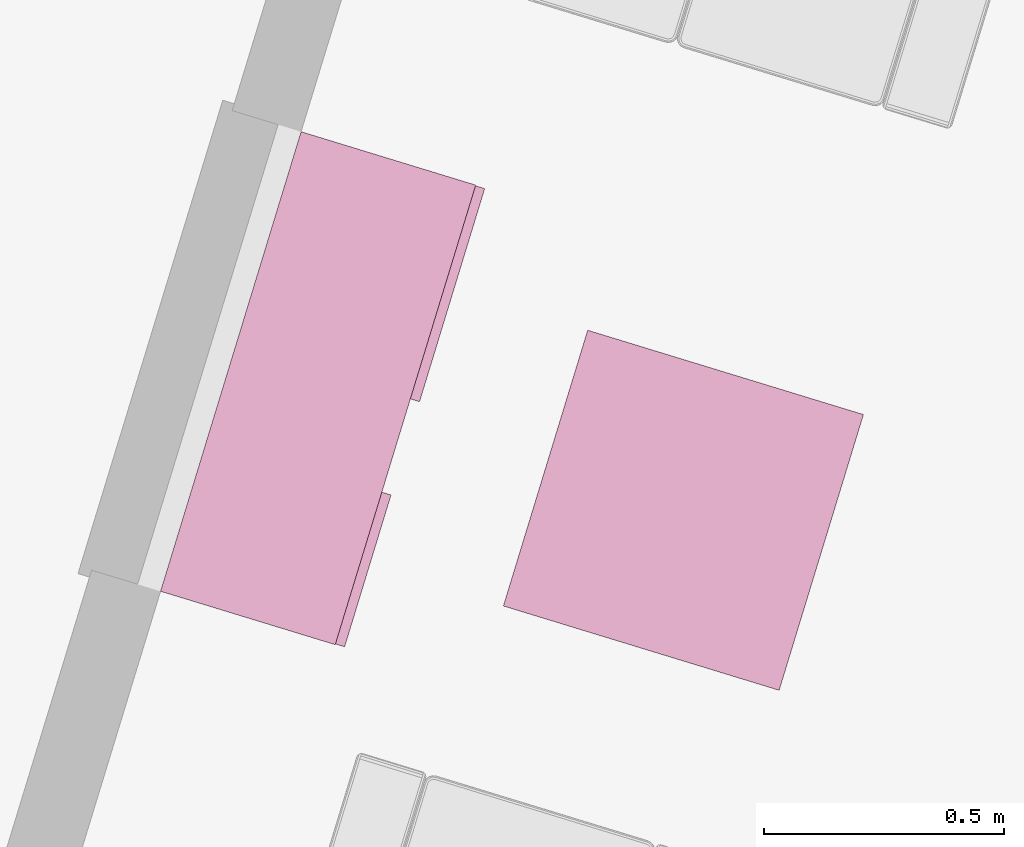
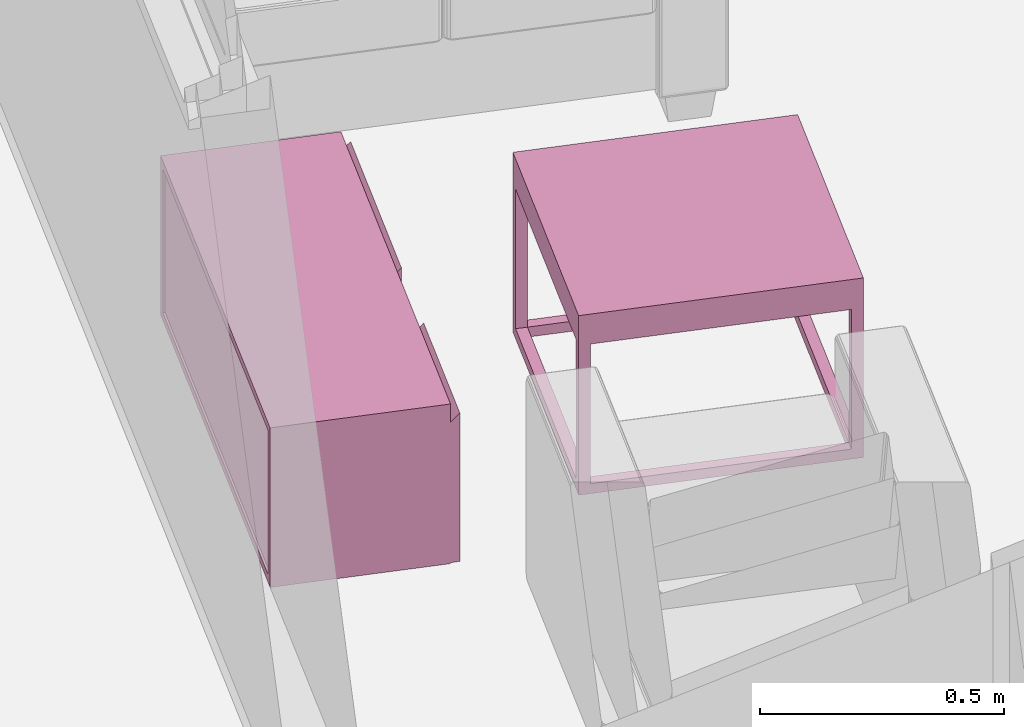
# One storey, part 12 of 13: 2 furnishings.
"""IFC2X3 building model written with IfcOpenShell, lengths in millimetres."""

import ifcopenshell
import ifcopenshell.guid

model = None  # the IFC model being written
_history = None  # IfcOwnerHistory: only IFC2X3 demands one
_inside = {}  # id of a spatial element -> (the spatial element, [elements in it])
_under = {}  # id of a project, library or spatial element -> (it, [spatial elements below it])
_declared = {}  # id of a project -> (the project, [libraries it declares])
_typed = {}  # id of a type object -> (the type object, [elements of that type])
_made_of = {}  # id of a material, layer set ... -> (it, [elements and type objects made of it])


def new_model(schema):
    """Start an empty IFC model of exactly this schema.

    Asked for "IFC4X3", IfcOpenShell would pick the latest addendum, in which some entities
    have other attributes; the version numbers below select the first issue.
    IFC2X3 requires an IfcOwnerHistory on every rooted entity: one is made here for all.
    """
    global model, _history
    if schema == "IFC4X3":
        model = ifcopenshell.file(schema_version=(4, 3, 0, 0))
    else:
        model = ifcopenshell.file(schema=schema)
    _inside.clear()
    _under.clear()
    _declared.clear()
    _typed.clear()
    _made_of.clear()
    _history = None
    if model.schema == "IFC2X3":
        org = make("IfcOrganization", Name="unknown")
        user = make(
            "IfcPersonAndOrganization",
            ThePerson=make("IfcPerson", FamilyName="unknown"),
            TheOrganization=org,
        )
        app = make(
            "IfcApplication",
            ApplicationDeveloper=org,
            Version="unknown",
            ApplicationFullName="unknown",
            ApplicationIdentifier="unknown",
        )
        _history = make(
            "IfcOwnerHistory",
            OwningUser=user,
            OwningApplication=app,
            ChangeAction="ADDED",
            CreationDate=0,
        )
    return model


def make(cls, **values):
    """One entity of the class cls with the attributes given. An attribute that is None is left unset."""
    return model.create_entity(
        cls, **{name: value for name, value in values.items() if value is not None}
    )


def entity(cls, *values):
    """Any entity or typed value of the class cls, its attributes in the order of the schema. None: left unset."""
    e = model.create_entity(cls)
    for i, value in enumerate(values):
        if value is not None:
            e[i] = value
    return e


def rooted(cls, **values):
    """An entity with a GlobalId (a new one), such as an element, a storey or a relation."""
    return make(cls, GlobalId=ifcopenshell.guid.new(), OwnerHistory=_history, **values)


def si_unit(unit_type, name, prefix=None):
    """IfcSIUnit, for example si_unit("LENGTHUNIT", "METRE", prefix="MILLI")."""
    return make("IfcSIUnit", UnitType=unit_type, Prefix=prefix, Name=name)


def converted_unit(unit_type, name, factor, base, dimensions=None, offset=None):
    """IfcConversionBasedUnit, such as the inch: factor (a typed value) times the base unit."""
    return make(
        "IfcConversionBasedUnit"
        if offset is None
        else "IfcConversionBasedUnitWithOffset",
        ConversionOffset=offset,
        Dimensions=None
        if dimensions is None
        else entity("IfcDimensionalExponents", *dimensions),
        UnitType=unit_type,
        Name=name,
        ConversionFactor=make(
            "IfcMeasureWithUnit", ValueComponent=factor, UnitComponent=base
        ),
    )


def derived_unit(unit_type, elements):
    """IfcDerivedUnit: a product of units, each with its exponent."""
    return make(
        "IfcDerivedUnit",
        Elements=[
            make("IfcDerivedUnitElement", Unit=unit, Exponent=power)
            for unit, power in elements
        ],
        UnitType=unit_type,
    )


def money_unit(currency):
    """IfcMonetaryUnit."""
    return make("IfcMonetaryUnit", Currency=currency)


def assignment(units):
    """IfcUnitAssignment: the units of a project."""
    return None if units is None else make("IfcUnitAssignment", Units=units)


def point(xyz):
    """IfcCartesianPoint."""
    return None if xyz is None else make("IfcCartesianPoint", Coordinates=xyz)


def direction(xyz):
    """IfcDirection."""
    return None if xyz is None else make("IfcDirection", DirectionRatios=xyz)


def frame(location, z_axis=None, x_axis=None):
    """IfcAxis2Placement3D, a coordinate frame: its origin and axes. An axis left out is left unset."""
    return make(
        "IfcAxis2Placement3D",
        Location=point(location),
        Axis=direction(z_axis),
        RefDirection=direction(x_axis),
    )


def origin_with_axes():
    """The frame at (0, 0, 0) with the z axis (0, 0, 1) and the x axis (1, 0, 0) written out."""
    return frame((0.0, 0.0, 0.0), z_axis=(0.0, 0.0, 1.0), x_axis=(1.0, 0.0, 0.0))


def place(relative_to, where):
    """IfcLocalPlacement: puts the frame where relative to a parent placement (None: the world)."""
    return make(
        "IfcLocalPlacement", PlacementRelTo=relative_to, RelativePlacement=where
    )


def context(
    kind, dimensions, precision=None, world=None, true_north=None, identifier=None
):
    """IfcGeometricRepresentationContext, for example the 3D "Model" context."""
    return make(
        "IfcGeometricRepresentationContext",
        ContextIdentifier=identifier,
        ContextType=kind,
        CoordinateSpaceDimension=dimensions,
        Precision=precision,
        WorldCoordinateSystem=world,
        TrueNorth=true_north,
    )


def subcontext(parent, identifier, kind, view, scale=None):
    """IfcGeometricRepresentationSubContext, for example "Body" below "Model"."""
    return make(
        "IfcGeometricRepresentationSubContext",
        ContextIdentifier=identifier,
        ContextType=kind,
        ParentContext=parent,
        TargetScale=scale,
        TargetView=view,
    )


def project(units=None, contexts=None):
    """IfcProject with its units and contexts."""
    return rooted(
        "IfcProject",
        Name="project",
        RepresentationContexts=contexts,
        UnitsInContext=assignment(units),
    )


def spatial(cls, under=None, at=None, **own):
    """A site, building, storey or space (cls), placed at a placement, below another one or the project."""
    s = rooted(cls, ObjectPlacement=at, **own)
    if under is not None:
        _under.setdefault(under.id(), (under, []))[1].append(s)
    return s


def faces_of(points, faces, orient=None, outer=None):
    """IfcFace entities. A face is a list of loops; a loop is a list of indices into points, from 0.

    orient and outer hold one flag for each loop. By default every Orientation is true, the
    first loop of a face is its IfcFaceOuterBound and the others are IfcFaceBound.
    """
    made = []
    for i, loops in enumerate(faces):
        bounds = []
        for j, loop in enumerate(loops):
            is_outer = j == 0 if outer is None else outer[i][j]
            bounds.append(
                make(
                    "IfcFaceOuterBound" if is_outer else "IfcFaceBound",
                    Bound=make("IfcPolyLoop", Polygon=[points[k] for k in loop]),
                    Orientation=True if orient is None else orient[i][j],
                )
            )
        made.append(make("IfcFace", Bounds=bounds))
    return made


def faceted_brep(points, faces, orient=None, outer=None, voids=None):
    """IfcFacetedBrep: a solid bounded by flat faces; with voids (closed shells), ...WithVoids."""
    shared = [point(p) for p in points]
    hull = make("IfcClosedShell", CfsFaces=faces_of(shared, faces, orient, outer))
    if voids is None:
        return make("IfcFacetedBrep", Outer=hull)
    return make(
        "IfcFacetedBrepWithVoids",
        Outer=hull,
        Voids=[
            make(cls, CfsFaces=faces_of(shared, fs, o, b)) for cls, fs, o, b in voids
        ],
    )


def shape(context_of_items, identifier, shape_type, items):
    """IfcShapeRepresentation: the items that make up one representation, for example the "Body"."""
    return make(
        "IfcShapeRepresentation",
        ContextOfItems=context_of_items,
        RepresentationIdentifier=identifier,
        RepresentationType=shape_type,
        Items=items,
    )


def made_of(thing, what):
    """Note that an element or type object is made of a material, layer set ...; save() writes the relation."""
    if what is not None:
        _made_of.setdefault(what.id(), (what, []))[1].append(thing)
    return thing


def type_object(cls, material=None, **own):
    """A type object (cls), such as IfcWallType, which elements share."""
    return made_of(rooted(cls, **own), material)


def element(
    cls,
    number,
    at=None,
    inside=None,
    cuts=None,
    type_object=None,
    material=None,
    context=None,
    identifier="Body",
    shape_type=None,
    held_by="IfcProductDefinitionShape",
    body=None,
    shapes=None,
    **own,
):
    """One element of the class cls, such as IfcWall. Its Tag is "e" and its number.

    at: its placement. inside: the storey or other place that contains it. cuts: it is an
    opening in that element (IfcRelVoidsElement). A single representation is given by context,
    identifier, shape_type and body (its items); several are given by shapes. held_by: the class
    of the entity that holds the representations. save() writes the other relations.
    """
    e = rooted(cls, Tag="e%d" % number, ObjectPlacement=at, **own)
    if body is not None:
        shapes = [shape(context, identifier, shape_type, body)]
    if shapes is not None:
        e.Representation = make(held_by, Representations=shapes)
    if inside is not None:
        _inside.setdefault(inside.id(), (inside, []))[1].append(e)
    if cuts is not None:
        rooted(
            "IfcRelVoidsElement", RelatingBuildingElement=cuts, RelatedOpeningElement=e
        )
    if type_object is not None:
        _typed.setdefault(type_object.id(), (type_object, []))[1].append(e)
    return made_of(e, material)


def aggregate(whole, parts):
    """IfcRelAggregates: a whole, such as a stair, and the parts it consists of."""
    return rooted("IfcRelAggregates", RelatingObject=whole, RelatedObjects=parts)


def save(model, path):
    """Write the relations noted so far, then the file.

    IfcRelAggregates (storeys below a building ...), IfcRelContainedInSpatialStructure (elements
    in a storey), IfcRelDefinesByType, IfcRelAssociatesMaterial and IfcRelDeclares: one each for
    every whole, place, type object, material and project.
    """
    for whole, parts in _under.values():
        aggregate(whole, parts)
    for where, things in _inside.values():
        rooted(
            "IfcRelContainedInSpatialStructure",
            RelatedElements=things,
            RelatingStructure=where,
        )
    for kind, things in _typed.values():
        rooted("IfcRelDefinesByType", RelatedObjects=things, RelatingType=kind)
    for what, things in _made_of.values():
        rooted("IfcRelAssociatesMaterial", RelatedObjects=things, RelatingMaterial=what)
    for by, libraries in _declared.values():
        rooted("IfcRelDeclares", RelatingContext=by, RelatedDefinitions=libraries)
    model.write(path)


model = new_model("IFC2X3")

# Units and contexts
model_context = context("Model", 3, precision=0.01, world=origin_with_axes(), true_north=direction((0.0, 1.0)))
body_context = subcontext(model_context, "Body", "Model", "MODEL_VIEW")
ifc_project = project(units=[si_unit("LENGTHUNIT", "METRE", prefix="MILLI"), si_unit("AREAUNIT", "SQUARE_METRE"), si_unit("VOLUMEUNIT", "CUBIC_METRE"), converted_unit("PLANEANGLEUNIT", "DEGREE", entity("IfcPlaneAngleMeasure", 0.0174532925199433), si_unit("PLANEANGLEUNIT", "RADIAN"), dimensions=[0, 0, 0, 0, 0, 0, 0]), money_unit("USD"), converted_unit("TIMEUNIT", "Year", entity("IfcTimeMeasure", 31557600.0), si_unit("TIMEUNIT", "SECOND"), dimensions=[0, 0, 1, 0, 0, 0, 0]), si_unit("MASSUNIT", "GRAM", prefix="KILO"), si_unit("THERMODYNAMICTEMPERATUREUNIT", "DEGREE_CELSIUS"), si_unit("LUMINOUSINTENSITYUNIT", "LUMEN"), si_unit("ENERGYUNIT", "JOULE", prefix="MEGA"), derived_unit("THERMALCONDUCTANCEUNIT", [(si_unit("POWERUNIT", "WATT"), 1), (si_unit("LENGTHUNIT", "METRE"), -1), (si_unit("THERMODYNAMICTEMPERATUREUNIT", "KELVIN"), -1)]), derived_unit("SPECIFICHEATCAPACITYUNIT", [(si_unit("ENERGYUNIT", "JOULE"), 1), (si_unit("MASSUNIT", "GRAM", prefix="KILO"), -1), (si_unit("THERMODYNAMICTEMPERATUREUNIT", "KELVIN"), -1)]), derived_unit("MASSDENSITYUNIT", [(si_unit("MASSUNIT", "GRAM", prefix="KILO"), 1), (si_unit("VOLUMEUNIT", "CUBIC_METRE"), -1)])], contexts=[model_context])

# Site, building, storey, space
site_placement = place(None, frame((0.0, 0.0, 0.0), z_axis=(0.0, 0.0, 1.0), x_axis=(0.9563047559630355, -0.2923717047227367, 0.0)))
site = spatial("IfcSite", under=ifc_project, at=site_placement, Name="Site", CompositionType="ELEMENT")
building_placement = place(site_placement, origin_with_axes())
building = spatial("IfcBuilding", under=site, at=building_placement, Name="Casa Térrea Isolada", CompositionType="ELEMENT")
storey_placement = place(building_placement, origin_with_axes())
storey = spatial("IfcBuildingStorey", under=building, at=storey_placement, Name="Terreo", CompositionType="ELEMENT", Elevation=0.0)
space_placement = place(storey_placement, frame((150.0015215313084, 3299.997772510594, 0.0), z_axis=(0.0, 0.0, 1.0), x_axis=(1.0, 0.0, 0.0)))
space = spatial("IfcSpace", under=storey, at=space_placement, Name="01", CompositionType="ELEMENT", InteriorOrExteriorSpace="INTERNAL")

# Furnishings
furniture_type_1 = type_object("IfcFurnitureType", Name="TV Stand Mounted 27", AssemblyPlace="NOTDEFINED")
furnishing_1_placement = place(space_placement, frame((399.9992853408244, 900.0022274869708, 0.0), z_axis=(0.0, 0.0, 1.0), x_axis=(0.0, 1.0, 0.0)))
element("IfcFurnishingElement", 1, at=furnishing_1_placement, inside=space, type_object=furniture_type_1, Name="MB03", context=body_context, shape_type="Brep", body=[
    faceted_brep([(1000.0, 20.0, 0.0), (0.0, 20.0, 0.0), (0.0, 400.0, 0.0), (1000.0, 400.0, 0.0), (1000.0, 20.0, 20.0), (0.0, 20.0, 20.0), (0.0, 400.0, 20.0), (1000.0, 400.0, 20.0)], [[[0, 1, 2, 3]], [[1, 0, 4, 5]], [[2, 1, 5, 6]], [[3, 2, 6, 7]], [[0, 3, 7, 4]], [[5, 4, 7, 6]]]),
    faceted_brep([(1000.0, 20.0, 380.0), (0.0, 20.0, 380.0), (0.0, 400.0, 380.0), (1000.0, 400.0, 380.0), (1000.0, 20.0, 400.0), (0.0, 20.0, 400.0), (0.0, 400.0, 400.0), (1000.0, 400.0, 400.0)], [[[0, 1, 2, 3]], [[1, 0, 4, 5]], [[2, 1, 5, 6]], [[3, 2, 6, 7]], [[0, 3, 7, 4]], [[5, 4, 7, 6]]]),
    faceted_brep([(980.0, 390.0, 20.0), (20.0, 390.0, 20.0), (20.0, 395.0, 20.0), (980.0, 395.0, 20.0), (980.0, 390.0, 380.0000000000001), (20.0, 390.0, 380.0000000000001), (20.0, 395.0, 380.0000000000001), (980.0, 395.0, 380.0000000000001)], [[[0, 1, 2, 3]], [[1, 0, 4, 5]], [[2, 1, 5, 6]], [[3, 2, 6, 7]], [[0, 3, 7, 4]], [[5, 4, 7, 6]]]),
    faceted_brep([(20.0, 20.0, 20.0), (0.0, 20.0, 20.0), (0.0, 400.0, 20.0), (20.0, 400.0, 20.0), (20.0, 20.0, 380.0000000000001), (0.0, 20.0, 380.0000000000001), (0.0, 400.0, 380.0000000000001), (20.0, 400.0, 380.0000000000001)], [[[0, 1, 2, 3]], [[1, 0, 4, 5]], [[2, 1, 5, 6]], [[3, 2, 6, 7]], [[0, 3, 7, 4]], [[5, 4, 7, 6]]]),
    faceted_brep([(1000.0, 20.0, 20.0), (980.0, 20.0, 20.0), (980.0, 400.0, 20.0), (1000.0, 400.0, 20.0), (1000.0, 20.0, 380.0000000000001), (980.0, 20.0, 380.0000000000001), (980.0, 400.0, 380.0000000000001), (1000.0, 400.0, 380.0000000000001)], [[[0, 1, 2, 3]], [[1, 0, 4, 5]], [[2, 1, 5, 6]], [[3, 2, 6, 7]], [[0, 3, 7, 4]], [[5, 4, 7, 6]]]),
    faceted_brep([(1.500000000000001, 20.0, 353.5000000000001), (331.8333333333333, 20.00000000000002, 353.5000000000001), (331.8333333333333, 20.0, 1.500000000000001), (1.500000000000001, 20.0, 1.500000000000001), (331.8333333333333, 0.0, 373.5), (1.500000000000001, 0.0, 373.5), (331.8333333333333, 0.0, 1.500000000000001), (1.500000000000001, 0.0, 1.500000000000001)], [[[0, 1, 2, 3]], [[4, 1, 0, 5]], [[1, 4, 6, 2]], [[6, 7, 3, 2]], [[5, 0, 3, 7]], [[4, 5, 7, 6]]]),
    faceted_brep([(313.3333333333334, 20.0, 190.0), (20.0, 20.0, 190.0), (20.0, 390.0, 190.0), (313.3333333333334, 390.0, 190.0), (313.3333333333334, 20.0, 210.0), (20.0, 20.0, 210.0), (20.0, 390.0, 210.0), (313.3333333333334, 390.0, 210.0)], [[[0, 1, 2, 3]], [[1, 0, 4, 5]], [[2, 1, 5, 6]], [[3, 2, 6, 7]], [[0, 3, 7, 4]], [[5, 4, 7, 6]]]),
    faceted_brep([(353.3333333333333, 20.0, 20.0), (313.3333333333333, 20.0, 20.0), (313.3333333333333, 390.0, 20.0), (353.3333333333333, 390.0, 20.0), (353.3333333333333, 20.0, 380.0000000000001), (313.3333333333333, 20.0, 380.0000000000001), (313.3333333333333, 390.0, 380.0000000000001), (353.3333333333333, 390.0, 380.0000000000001)], [[[0, 1, 2, 3]], [[1, 0, 4, 5]], [[2, 1, 5, 6]], [[3, 2, 6, 7]], [[0, 3, 7, 4]], [[5, 4, 7, 6]]]),
    faceted_brep([(513.3333333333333, 20.0, 190.0), (353.3333333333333, 20.0, 190.0), (353.3333333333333, 390.0, 190.0), (513.3333333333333, 390.0, 190.0), (513.3333333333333, 20.0, 210.0), (353.3333333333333, 20.0, 210.0), (353.3333333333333, 390.0, 210.0), (513.3333333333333, 390.0, 210.0)], [[[0, 1, 2, 3]], [[1, 0, 4, 5]], [[2, 1, 5, 6]], [[3, 2, 6, 7]], [[0, 3, 7, 4]], [[5, 4, 7, 6]]]),
    faceted_brep([(553.3333333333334, 20.0, 20.0), (513.3333333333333, 20.0, 20.0), (513.3333333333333, 390.0, 20.0), (553.3333333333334, 390.0, 20.0), (553.3333333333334, 20.0, 380.0000000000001), (513.3333333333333, 20.0, 380.0000000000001), (513.3333333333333, 390.0, 380.0000000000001), (553.3333333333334, 390.0, 380.0000000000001)], [[[0, 1, 2, 3]], [[1, 0, 4, 5]], [[2, 1, 5, 6]], [[3, 2, 6, 7]], [[0, 3, 7, 4]], [[5, 4, 7, 6]]]),
    faceted_brep([(534.8333333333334, 20.00000000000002, 353.5000000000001), (998.5, 19.99999999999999, 353.5000000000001), (998.5, 20.0, 1.500000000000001), (534.8333333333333, 20.0, 1.500000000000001), (998.5, 0.0, 373.5), (534.8333333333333, 0.0, 373.5), (998.5, 0.0, 1.500000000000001), (534.8333333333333, 0.0, 1.500000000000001)], [[[0, 1, 2, 3]], [[4, 1, 0, 5]], [[1, 4, 6, 2]], [[2, 6, 7, 3]], [[5, 0, 3, 7]], [[4, 5, 7, 6]]]),
    faceted_brep([(980.0000000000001, 20.0, 190.0), (553.3333333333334, 20.0, 190.0), (553.3333333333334, 390.0, 190.0), (980.0000000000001, 390.0, 190.0), (980.0000000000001, 20.0, 210.0), (553.3333333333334, 20.0, 210.0), (553.3333333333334, 390.0, 210.0), (980.0000000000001, 390.0, 210.0)], [[[0, 1, 2, 3]], [[1, 0, 4, 5]], [[2, 1, 5, 6]], [[3, 2, 6, 7]], [[0, 3, 7, 4]], [[5, 4, 7, 6]]]),
])
furniture_type_2 = type_object("IfcFurnitureType", Name="Coffee Table 04 27", AssemblyPlace="NOTDEFINED")
furnishing_2_placement = place(space_placement, frame((691.1278118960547, 1079.300132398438, 0.0), z_axis=(0.0, 0.0, 1.0), x_axis=(1.0, 0.0, 0.0)))
element("IfcFurnishingElement", 2, at=furnishing_2_placement, inside=space, type_object=furniture_type_2, Name="MB04", context=body_context, shape_type="Brep", body=[
    faceted_brep([(600.0, 0.0, 400.0), (0.0, 0.0, 400.0), (0.0, 600.0, 400.0), (600.0, 600.0, 400.0), (600.0, 0.0, 450.0), (0.0, 0.0, 450.0), (0.0, 600.0, 450.0), (600.0, 600.0, 450.0)], [[[0, 1, 2, 3]], [[1, 0, 4, 5]], [[2, 1, 5, 6]], [[3, 2, 6, 7]], [[0, 3, 7, 4]], [[5, 4, 7, 6]]]),
    faceted_brep([(0.0, 0.0, 0.0), (600.0, 0.0, 0.0), (600.0, 0.0, 25.0), (0.0, 0.0, 25.0), (0.0, 600.0, 0.0), (600.0, 600.0, 0.0), (25.0, 25.0, 0.0), (575.0, 25.0, 0.0), (575.0, 575.0, 0.0), (25.0, 575.0, 0.0), (600.0, 600.0, 25.0), (0.0, 600.0, 25.0), (25.0, 25.0, 25.0), (25.0, 575.0, 25.0), (575.0, 575.0, 25.0), (575.0, 25.0, 25.0)], [[[0, 1, 2, 3]], [[0, 4, 5, 1], [6, 7, 8, 9]], [[1, 5, 10, 2]], [[3, 2, 10, 11], [12, 13, 14, 15]], [[4, 0, 3, 11]], [[5, 4, 11, 10]], [[7, 6, 12, 15]], [[8, 7, 15, 14]], [[9, 8, 14, 13]], [[6, 9, 13, 12]]]),
    faceted_brep([(0.0, 0.0, 375.0), (600.0, 0.0, 375.0), (600.0, 0.0, 400.0), (0.0, 0.0, 400.0), (0.0, 600.0, 375.0), (600.0, 600.0, 375.0), (25.0, 25.0, 375.0), (575.0, 25.0, 375.0), (575.0, 575.0, 375.0), (25.0, 575.0, 375.0), (600.0, 600.0, 400.0), (0.0, 600.0, 400.0), (25.0, 25.0, 400.0), (25.0, 575.0, 400.0), (575.0, 575.0, 400.0), (575.0, 25.0, 400.0)], [[[0, 1, 2, 3]], [[0, 4, 5, 1], [6, 7, 8, 9]], [[1, 5, 10, 2]], [[3, 2, 10, 11], [12, 13, 14, 15]], [[4, 0, 3, 11]], [[5, 4, 11, 10]], [[7, 6, 12, 15]], [[8, 7, 15, 14]], [[9, 8, 14, 13]], [[6, 9, 13, 12]]]),
    faceted_brep([(25.0, 0.0, 25.0), (0.0, 0.0, 25.0), (0.0, 25.0, 25.0), (25.0, 25.0, 25.0), (25.0, 0.0, 375.0000000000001), (0.0, 0.0, 375.0000000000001), (0.0, 25.0, 375.0000000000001), (25.0, 25.0, 375.0000000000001)], [[[0, 1, 2, 3]], [[1, 0, 4, 5]], [[2, 1, 5, 6]], [[3, 2, 6, 7]], [[0, 3, 7, 4]], [[5, 4, 7, 6]]]),
    faceted_brep([(25.0, 600.0, 25.0), (25.0, 575.0, 25.0), (0.0, 575.0, 25.0), (0.0, 600.0, 25.0), (25.0, 600.0, 375.0000000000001), (25.0, 575.0, 375.0000000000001), (0.0, 575.0, 375.0000000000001), (0.0, 600.0, 375.0000000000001)], [[[0, 1, 2, 3]], [[0, 4, 5, 1]], [[1, 5, 6, 2]], [[2, 6, 7, 3]], [[3, 7, 4, 0]], [[7, 6, 5, 4]]]),
    faceted_brep([(575.0, 0.0, 25.0), (575.0, 25.0, 25.0), (600.0, 25.0, 25.0), (600.0, 0.0, 25.0), (575.0, 0.0, 375.0000000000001), (575.0, 25.0, 375.0000000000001), (600.0, 25.0, 375.0000000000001), (600.0, 0.0, 375.0000000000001)], [[[0, 1, 2, 3]], [[0, 4, 5, 1]], [[1, 5, 6, 2]], [[2, 6, 7, 3]], [[3, 7, 4, 0]], [[7, 6, 5, 4]]]),
    faceted_brep([(575.0, 600.0, 25.0), (600.0, 600.0, 25.0), (600.0, 575.0, 25.0), (575.0, 575.0, 25.0), (575.0, 600.0, 375.0000000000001), (600.0, 600.0, 375.0000000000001), (600.0, 575.0, 375.0000000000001), (575.0, 575.0, 375.0000000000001)], [[[0, 1, 2, 3]], [[1, 0, 4, 5]], [[2, 1, 5, 6]], [[3, 2, 6, 7]], [[0, 3, 7, 4]], [[5, 4, 7, 6]]]),
])

save(model, "model.ifc")
